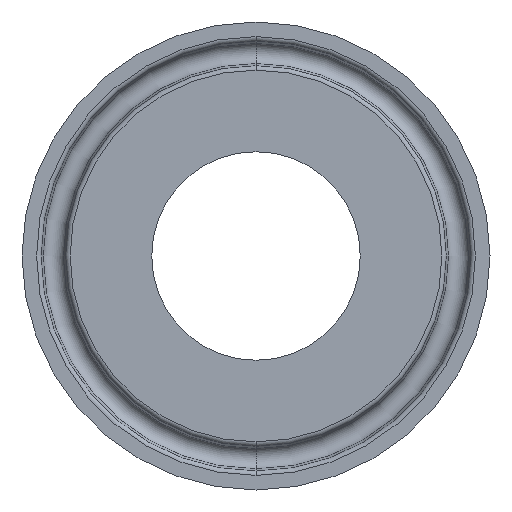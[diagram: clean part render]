
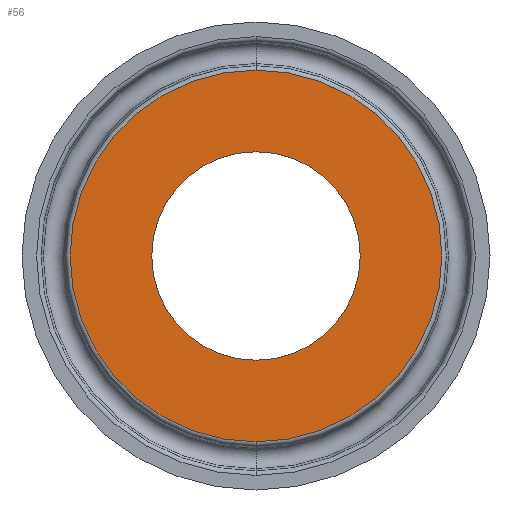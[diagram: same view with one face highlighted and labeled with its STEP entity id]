
A CAD part, front view. The second image highlights one B-rep face of the part: STEP entity #56.
In plain terms, the highlighted planar face has unit normal (0, -1, 0).
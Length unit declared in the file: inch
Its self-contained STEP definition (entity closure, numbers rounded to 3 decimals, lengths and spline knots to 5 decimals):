
#3 = CARTESIAN_POINT ( 'NONE',  ( 0., 0., 0.442 ) ) ;
#37 = FACE_BOUND ( 'NONE', #58, .T. ) ;
#42 = EDGE_CURVE ( 'NONE', #106, #294, #266, .T. ) ;
#44 = DIRECTION ( 'NONE',  ( 0., 1., 0. ) ) ;
#56 = ADVANCED_FACE ( 'NONE', ( #493, #37 ), #237, .F. ) ;
#58 = EDGE_LOOP ( 'NONE', ( #516, #120 ) ) ;
#87 = AXIS2_PLACEMENT_3D ( 'NONE', #342, #546, #288 ) ;
#95 = VERTEX_POINT ( 'NONE', #661 ) ;
#100 = DIRECTION ( 'NONE',  ( 0., 0., 1. ) ) ;
#101 = CARTESIAN_POINT ( 'NONE',  ( 0., 0., 0. ) ) ;
#103 = CARTESIAN_POINT ( 'NONE',  ( 0., 0., 0. ) ) ;
#106 = VERTEX_POINT ( 'NONE', #3 ) ;
#112 = ORIENTED_EDGE ( 'NONE', *, *, #408, .F. ) ;
#113 = EDGE_CURVE ( 'NONE', #294, #106, #205, .T. ) ;
#114 = AXIS2_PLACEMENT_3D ( 'NONE', #648, #395, #404 ) ;
#120 = ORIENTED_EDGE ( 'NONE', *, *, #113, .T. ) ;
#140 = CARTESIAN_POINT ( 'NONE',  ( 0., 0., 0. ) ) ;
#195 = EDGE_CURVE ( 'NONE', #558, #95, #292, .T. ) ;
#205 = CIRCLE ( 'NONE', #285, 0.442 ) ;
#237 = PLANE ( 'NONE',  #114 ) ;
#266 = CIRCLE ( 'NONE', #87, 0.442 ) ;
#285 = AXIS2_PLACEMENT_3D ( 'NONE', #140, #466, #366 ) ;
#288 = DIRECTION ( 'NONE',  ( 0., 0., 1. ) ) ;
#289 = EDGE_LOOP ( 'NONE', ( #112, #396 ) ) ;
#292 = CIRCLE ( 'NONE', #436, 0.78791 ) ;
#294 = VERTEX_POINT ( 'NONE', #635 ) ;
#305 = CIRCLE ( 'NONE', #602, 0.78791 ) ;
#342 = CARTESIAN_POINT ( 'NONE',  ( 0., 0., 0. ) ) ;
#366 = DIRECTION ( 'NONE',  ( 0., 0., 1. ) ) ;
#395 = DIRECTION ( 'NONE',  ( 0., 1., 0. ) ) ;
#396 = ORIENTED_EDGE ( 'NONE', *, *, #195, .F. ) ;
#404 = DIRECTION ( 'NONE',  ( 0., 0., 1. ) ) ;
#408 = EDGE_CURVE ( 'NONE', #95, #558, #305, .T. ) ;
#436 = AXIS2_PLACEMENT_3D ( 'NONE', #101, #515, #506 ) ;
#466 = DIRECTION ( 'NONE',  ( 0., 1., 0. ) ) ;
#493 = FACE_OUTER_BOUND ( 'NONE', #289, .T. ) ;
#506 = DIRECTION ( 'NONE',  ( 0., 0., 1. ) ) ;
#515 = DIRECTION ( 'NONE',  ( 0., 1., 0. ) ) ;
#516 = ORIENTED_EDGE ( 'NONE', *, *, #42, .T. ) ;
#546 = DIRECTION ( 'NONE',  ( 0., 1., 0. ) ) ;
#558 = VERTEX_POINT ( 'NONE', #587 ) ;
#587 = CARTESIAN_POINT ( 'NONE',  ( 0., 0., -0.78791 ) ) ;
#602 = AXIS2_PLACEMENT_3D ( 'NONE', #103, #44, #100 ) ;
#635 = CARTESIAN_POINT ( 'NONE',  ( 0., 0., -0.442 ) ) ;
#648 = CARTESIAN_POINT ( 'NONE',  ( 0., 0., 0. ) ) ;
#661 = CARTESIAN_POINT ( 'NONE',  ( 0., 0., 0.78791 ) ) ;
